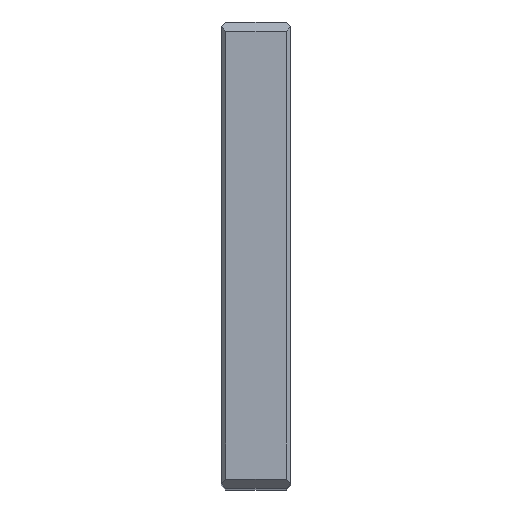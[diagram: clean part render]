
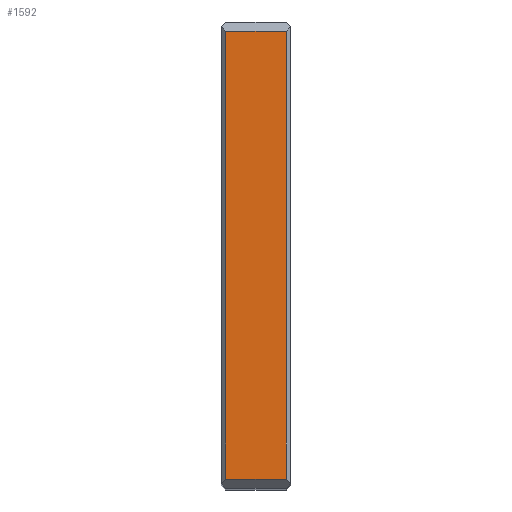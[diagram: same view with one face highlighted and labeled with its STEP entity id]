
A CAD part, top view. The second image highlights one B-rep face of the part: STEP entity #1592.
In plain terms, the highlighted planar face has unit normal (0, 0, 1).
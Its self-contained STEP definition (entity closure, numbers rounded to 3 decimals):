
#418=FACE_OUTER_BOUND($,#601,.T.);
#601=EDGE_LOOP($,(#1339,#1340,#1341,#1342));
#808=LINE($,#2501,#848);
#816=LINE($,#2582,#856);
#821=LINE($,#2592,#861);
#839=LINE($,#2692,#879);
#848=VECTOR($,#1958,13.);
#856=VECTOR($,#2036,96.);
#861=VECTOR($,#2043,13.);
#879=VECTOR($,#2143,96.);
#887=VERTEX_POINT($,#2498);
#888=VERTEX_POINT($,#2500);
#926=VERTEX_POINT($,#2580);
#930=VERTEX_POINT($,#2590);
#1044=EDGE_CURVE($,#887,#888,#808,.T.);
#1085=EDGE_CURVE($,#926,#887,#816,.T.);
#1090=EDGE_CURVE($,#930,#926,#821,.T.);
#1141=EDGE_CURVE($,#888,#930,#839,.T.);
#1339=ORIENTED_EDGE($,*,*,#1085,.F.);
#1340=ORIENTED_EDGE($,*,*,#1090,.F.);
#1341=ORIENTED_EDGE($,*,*,#1141,.F.);
#1342=ORIENTED_EDGE($,*,*,#1044,.F.);
#1569=PLANE($,#1778);
#1592=ADVANCED_FACE($,(#418),#1569,.T.);
#1778=AXIS2_PLACEMENT_3D($,#2697,#2148,#2149);
#1958=DIRECTION($,(1.,0.,0.));
#2036=DIRECTION($,(0.,1.,0.));
#2043=DIRECTION($,(-1.,0.,0.));
#2143=DIRECTION($,(0.,-1.,0.));
#2148=DIRECTION('center_axis',(0.,0.,1.));
#2149=DIRECTION('ref_axis',(0.,-1.,0.));
#2498=CARTESIAN_POINT('',(1.,98.,200.));
#2500=CARTESIAN_POINT('',(14.,98.,200.));
#2501=CARTESIAN_POINT($,(0.,98.,200.));
#2580=CARTESIAN_POINT('',(1.,2.,200.));
#2582=CARTESIAN_POINT($,(1.,75.,200.));
#2590=CARTESIAN_POINT('',(14.,2.,200.));
#2592=CARTESIAN_POINT($,(0.,2.,200.));
#2692=CARTESIAN_POINT($,(14.,75.,200.));
#2697=CARTESIAN_POINT('Origin',(0.,100.,200.));
